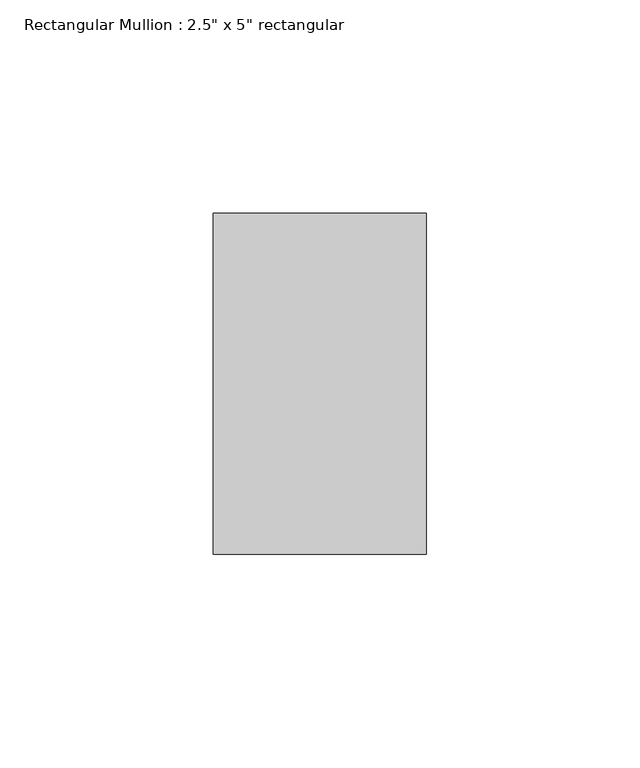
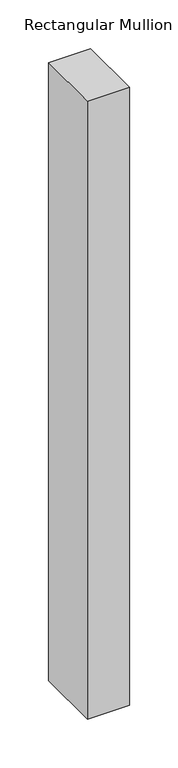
"""IFC4 building model written with IfcOpenShell, lengths in millimetres: member geometry."""

from ifc_helpers import new_model, si_unit, frame, origin, place, context, project, spatial, polyline, outline, extrude, source, transform, mapped, element, save


def member_248978aa(model_context):
    return source(origin(), model_context, "Body", "SweptSolid", [
        extrude(outline(polyline([(0.0, 40.0), (0.0, -40.0), (-50.0, -40.0), (-50.0, 40.0), (0.0, 40.0)])), frame((0.0, 0.0, -775.0), z_axis=(0.0, 0.0, 1.0), x_axis=(1.0, 0.0, 0.0)), (0.0, 0.0, 1.0), 775.0),
    ])


if __name__ == "__main__":
    model = new_model("IFC4")
    model_context = context("Model", 3, world=origin())
    ifc_project = project(units=[si_unit("LENGTHUNIT", "METRE", prefix="MILLI")], contexts=[model_context])
    site = spatial("IfcSite", under=ifc_project)
    building = spatial("IfcBuilding", under=site)
    placement = place(None, origin())
    member_shape = member_248978aa(model_context)
    element("IfcMember", 1, ObjectType="Rectangular Mullion : 2.5\" x 5\" rectangular", at=placement, inside=building, context=model_context, shape_type="MappedRepresentation", body=[
        mapped(member_shape, transform((0.0, 0.0, 0.0), x_axis=(1.0, 0.0, 0.0), y_axis=(0.0, 1.0, 0.0), z_axis=(0.0, 0.0, 1.0))),
    ])
    save(model, "model.ifc")
